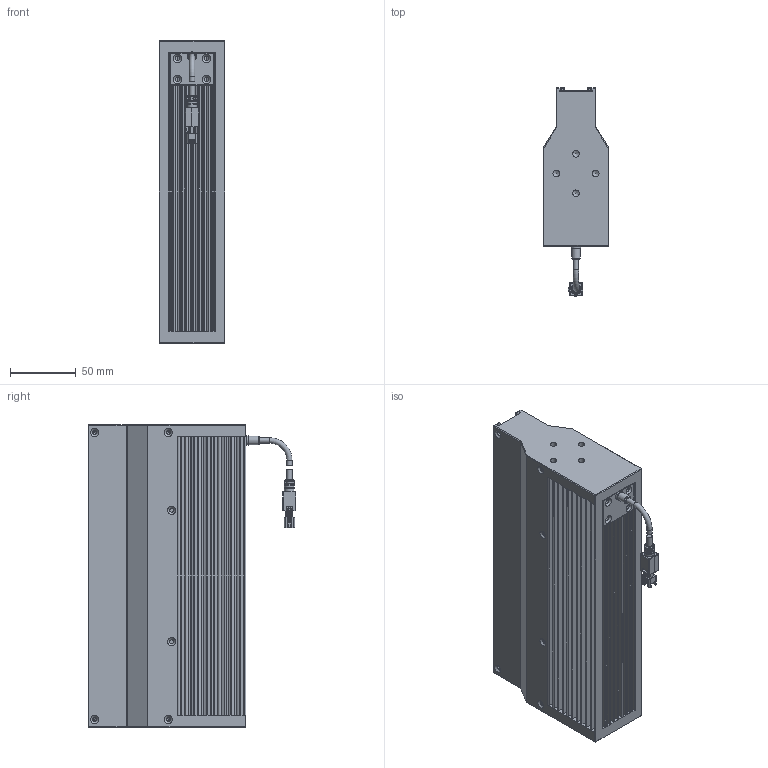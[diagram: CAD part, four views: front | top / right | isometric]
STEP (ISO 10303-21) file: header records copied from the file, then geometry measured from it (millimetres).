
FILE_DESCRIPTION (( 'STEP AP203' ), '1' );
FILE_NAME ('OPT-LSNL230-W-V1.0U尨砩芞.STEP', '2025-02-17T09:01:57', ( '' ), ( '' ), 'SwSTEP 2.0', 'SolidWorks 2016', '' );
FILE_SCHEMA (( 'CONFIG_CONTROL_DESIGN' ));
Length unit declared in the file: millimetre
Products named in the file (1): OPT-LSNL230-W-V1.0U尨砩芞
Bounding box: 50.02 x 158 x 230 mm (x, y, z)
Volume: 849840.2 mm3; surface area: 287722.7 mm2
Topology: 9 solids, 15 shells, 996 faces, 2738 edges, 1758 vertices
Faces by surface type: plane 596, cylinder 327, cone 44, bspline 21, torus 8
Full cylindrical faces by diameter (mm): 1.1 x2, 1.4 x2, 2.5 x10, 3 x8, 3.4 x16, 3.5 x1, 4.1 x4, 5 x8, 5.8 x1, 6.5 x1, 7 x1, 7.5 x1
Entity records: 33878 total; most frequent: CARTESIAN_POINT 9612, ORIENTED_EDGE 5146, DIRECTION 4726, EDGE_CURVE 2573, VERTEX_POINT 1704, VECTOR 1666, LINE 1666, AXIS2_PLACEMENT_3D 1530
